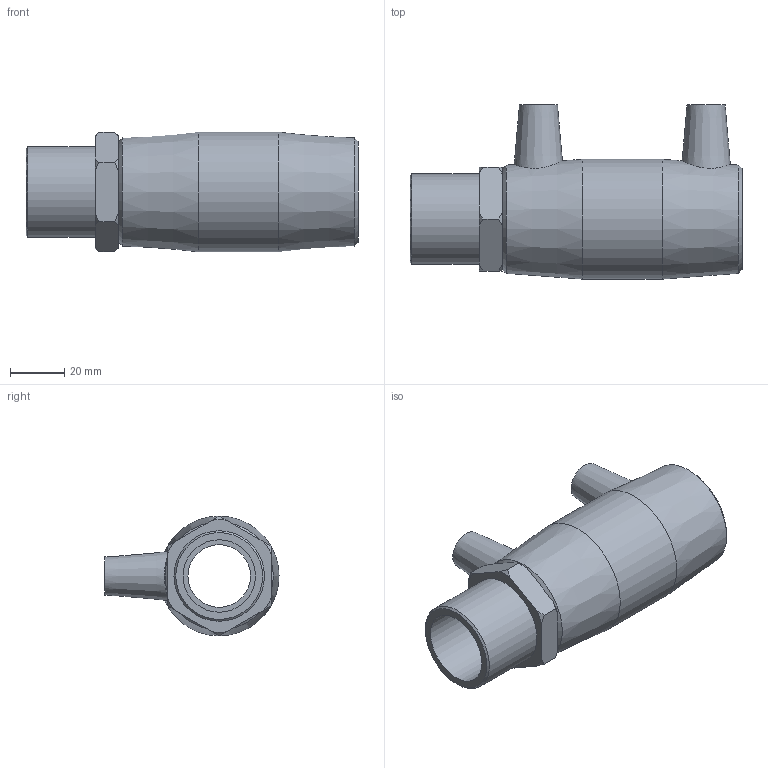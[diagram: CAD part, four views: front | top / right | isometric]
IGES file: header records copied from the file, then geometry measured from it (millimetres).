
Global section: file name: 492104032010.ipt; native system: Autodesk Inventor 2015; preprocessor: unknown; author: KIM; date: 20200202.122304; units: millimetre
Bounding box: 122 x 64 x 44 mm (x, y, z)
Volume: 92500.3 mm3; surface area: 32827.6 mm2
Topology: 1 solids, 2 shells, 54 faces, 129 edges, 88 vertices
Faces by surface type: plane 21, cone 19, revolution 8, cylinder 6
Full cylindrical faces by diameter (mm): 4 x2, 32 x2, 33.249 x1, 44 x1
